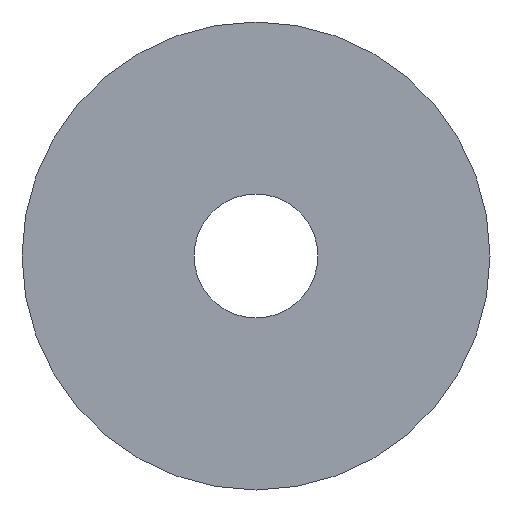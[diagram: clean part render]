
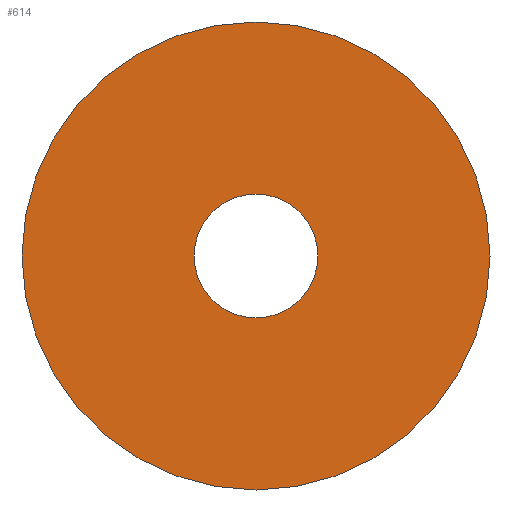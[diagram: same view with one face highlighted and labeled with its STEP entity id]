
A CAD part, left-side view. The second image highlights one B-rep face of the part: STEP entity #614.
In plain terms, the highlighted planar face has unit normal (-1, 0, 0).
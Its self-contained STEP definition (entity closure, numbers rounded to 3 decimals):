
#261 = CYLINDRICAL_SURFACE('',#262,15.5);
#262 = AXIS2_PLACEMENT_3D('',#263,#264,#265);
#263 = CARTESIAN_POINT('',(37.,-127.,234.));
#264 = DIRECTION('',(1.,0.,0.));
#265 = DIRECTION('',(-0.,0.,1.));
#468 = VERTEX_POINT('',#469);
#469 = CARTESIAN_POINT('',(37.,-127.,249.5));
#490 = EDGE_CURVE('',#468,#468,#491,.T.);
#491 = SURFACE_CURVE('',#492,(#497,#504),.PCURVE_S1.);
#492 = CIRCLE('',#493,15.5);
#493 = AXIS2_PLACEMENT_3D('',#494,#495,#496);
#494 = CARTESIAN_POINT('',(37.,-127.,234.));
#495 = DIRECTION('',(1.,0.,0.));
#496 = DIRECTION('',(-0.,0.,1.));
#497 = PCURVE('',#261,#498);
#498 = DEFINITIONAL_REPRESENTATION('',(#499),#503);
#499 = LINE('',#500,#501);
#500 = CARTESIAN_POINT('',(0.,0.));
#501 = VECTOR('',#502,1.);
#502 = DIRECTION('',(1.,0.));
#503 = ( GEOMETRIC_REPRESENTATION_CONTEXT(2) 
PARAMETRIC_REPRESENTATION_CONTEXT() REPRESENTATION_CONTEXT('2D SPACE',''
  ) );
#504 = PCURVE('',#505,#510);
#505 = PLANE('',#506);
#506 = AXIS2_PLACEMENT_3D('',#507,#508,#509);
#507 = CARTESIAN_POINT('',(37.,-127.,234.));
#508 = DIRECTION('',(1.,0.,0.));
#509 = DIRECTION('',(-0.,0.,1.));
#510 = DEFINITIONAL_REPRESENTATION('',(#511),#515);
#511 = CIRCLE('',#512,15.5);
#512 = AXIS2_PLACEMENT_2D('',#513,#514);
#513 = CARTESIAN_POINT('',(0.,0.));
#514 = DIRECTION('',(1.,0.));
#515 = ( GEOMETRIC_REPRESENTATION_CONTEXT(2) 
PARAMETRIC_REPRESENTATION_CONTEXT() REPRESENTATION_CONTEXT('2D SPACE',''
  ) );
#614 = ADVANCED_FACE('',(#615,#618),#505,.F.);
#615 = FACE_BOUND('',#616,.F.);
#616 = EDGE_LOOP('',(#617));
#617 = ORIENTED_EDGE('',*,*,#490,.T.);
#618 = FACE_BOUND('',#619,.F.);
#619 = EDGE_LOOP('',(#620));
#620 = ORIENTED_EDGE('',*,*,#621,.F.);
#621 = EDGE_CURVE('',#622,#622,#624,.T.);
#622 = VERTEX_POINT('',#623);
#623 = CARTESIAN_POINT('',(37.,-127.,238.1));
#624 = SURFACE_CURVE('',#625,(#630,#637),.PCURVE_S1.);
#625 = CIRCLE('',#626,4.1);
#626 = AXIS2_PLACEMENT_3D('',#627,#628,#629);
#627 = CARTESIAN_POINT('',(37.,-127.,234.));
#628 = DIRECTION('',(1.,0.,0.));
#629 = DIRECTION('',(-0.,0.,1.));
#630 = PCURVE('',#505,#631);
#631 = DEFINITIONAL_REPRESENTATION('',(#632),#636);
#632 = CIRCLE('',#633,4.1);
#633 = AXIS2_PLACEMENT_2D('',#634,#635);
#634 = CARTESIAN_POINT('',(0.,0.));
#635 = DIRECTION('',(1.,0.));
#636 = ( GEOMETRIC_REPRESENTATION_CONTEXT(2) 
PARAMETRIC_REPRESENTATION_CONTEXT() REPRESENTATION_CONTEXT('2D SPACE',''
  ) );
#637 = PCURVE('',#638,#643);
#638 = CYLINDRICAL_SURFACE('',#639,4.1);
#639 = AXIS2_PLACEMENT_3D('',#640,#641,#642);
#640 = CARTESIAN_POINT('',(37.,-127.,234.));
#641 = DIRECTION('',(1.,0.,0.));
#642 = DIRECTION('',(-0.,0.,1.));
#643 = DEFINITIONAL_REPRESENTATION('',(#644),#648);
#644 = LINE('',#645,#646);
#645 = CARTESIAN_POINT('',(0.,0.));
#646 = VECTOR('',#647,1.);
#647 = DIRECTION('',(1.,0.));
#648 = ( GEOMETRIC_REPRESENTATION_CONTEXT(2) 
PARAMETRIC_REPRESENTATION_CONTEXT() REPRESENTATION_CONTEXT('2D SPACE',''
  ) );
